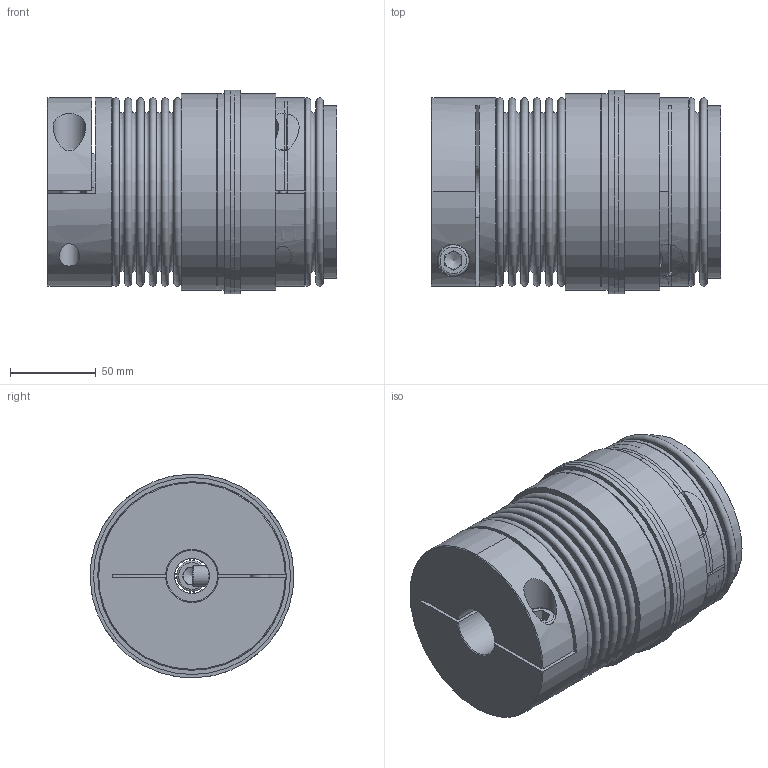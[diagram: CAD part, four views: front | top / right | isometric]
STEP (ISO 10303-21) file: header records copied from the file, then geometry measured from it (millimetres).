
FILE_DESCRIPTION( ( 'Unknown' ), '1' );
FILE_NAME( 'C:/Dokumente und Einstellungen/SKarpstein/Desktop/Korrigierte 3D Modelle/KBK-BKK-300-150.stp', 'Unknown', ( 'Unknown' ), ( 'Unknown' ), 'XStep 1.0', 'Unknown', ' ' );
FILE_SCHEMA( ( 'automotive_design' ) );
Length unit declared in the file: millimetre
Products named in the file (11): Assem1; Assem2; Zylinderschraube DIN 912_2_0; Stellring 300; Druckring 300; Kupplung L-K-300 Grundkörper; Klemmnabe 300; Flansch BK300; BL300_Standard_0; KN300_Standard_2; Socket Head Cap Screw_DIN_DIN 912 M12 x 40 --- 40N_0
Bounding box: 169.21 x 119 x 119 mm (x, y, z)
Volume: 1847483.5 mm3; surface area: 528972.9 mm2
Topology: 19 solids, 19 shells, 359 faces, 726 edges, 477 vertices
Faces by surface type: plane 174, cylinder 90, torus 52, cone 43
Full cylindrical faces by diameter (mm): 3.242 x6, 5.2 x6, 10.106 x2, 12 x7, 12.5 x4, 18 x5, 19 x4, 20 x2, 30 x2, 52 x2, 55 x4, 60 x2, 70 x2, 76 x4, 83.5 x2, 88 x2, 90 x2, 98 x2, 98.5 x2, 99.8 x4, 101 x4, 110 x2, 115 x4, 119 x2
Entity records: 4911 total; most frequent: CARTESIAN_POINT 1356, DIRECTION 731, ORIENTED_EDGE 482, AXIS2_PLACEMENT_3D 333, EDGE_LOOP 312, EDGE_CURVE 241, FACE_OUTER_BOUND 235, VERTEX_POINT 204
